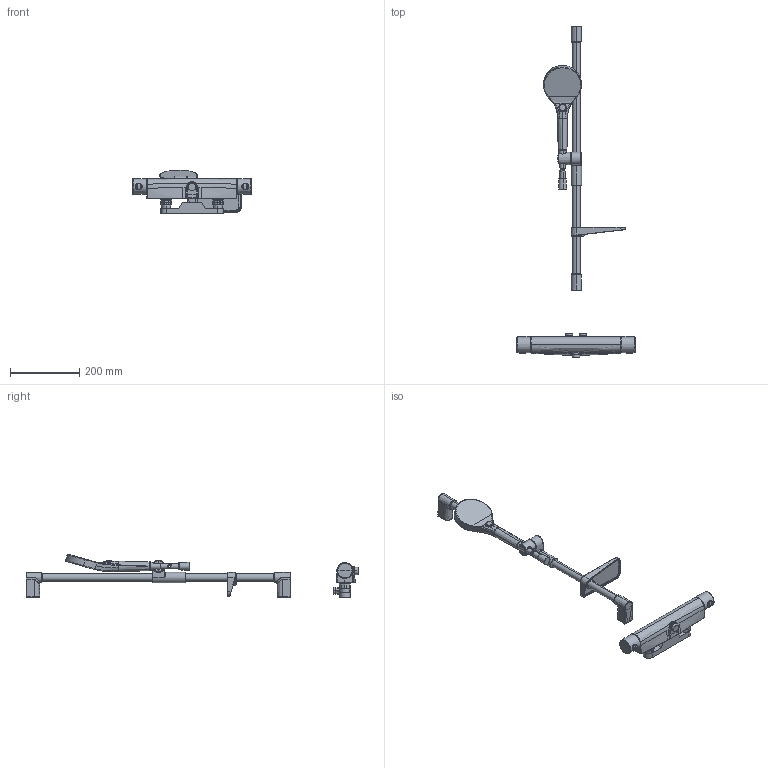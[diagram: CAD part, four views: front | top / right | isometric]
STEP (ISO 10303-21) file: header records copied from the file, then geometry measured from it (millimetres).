
FILE_DESCRIPTION (( 'STEP AP203' ), '1' );
FILE_NAME ('7159-109(2023).STEP', '2023-03-27T11:35:43', ( '' ), ( '' ), 'SwSTEP 2.0', 'SolidWorks 2016', '' );
FILE_SCHEMA (( 'CONFIG_CONTROL_DESIGN' ));
Length unit declared in the file: millimetre
Products named in the file (1): 7159-109(2023)
Bounding box: 342.5 x 960.21 x 126.39 mm (x, y, z)
Surface area: 288814.2 mm2 (no closed solid volume)
Topology: 0 solids, 22 shells, 798 faces, 1881 edges, 1128 vertices
Faces by surface type: bspline 441, plane 129, cylinder 94, cone 92, torus 30, sphere 12
Entity records: 58018 total; most frequent: CARTESIAN_POINT 43140, ORIENTED_EDGE 3708, DIRECTION 2138, EDGE_CURVE 1856, VERTEX_POINT 1129, AXIS2_PLACEMENT_3D 923, B_SPLINE_CURVE_WITH_KNOTS 917, EDGE_LOOP 827
